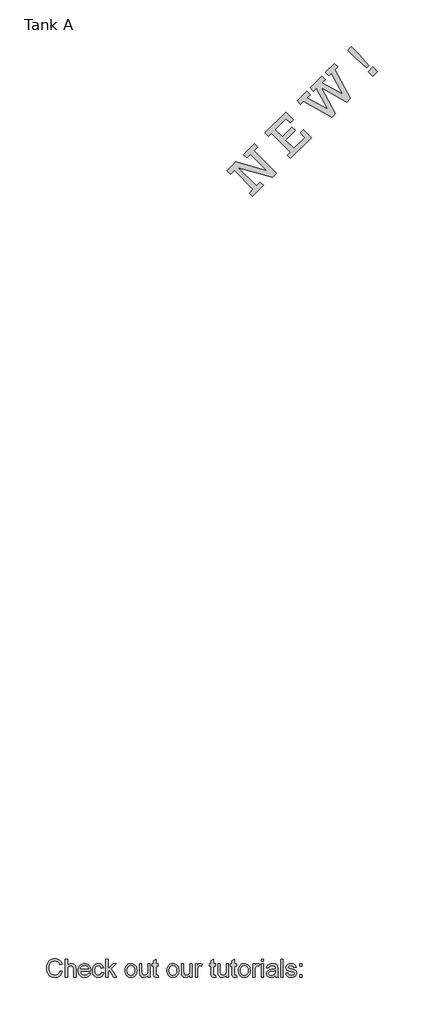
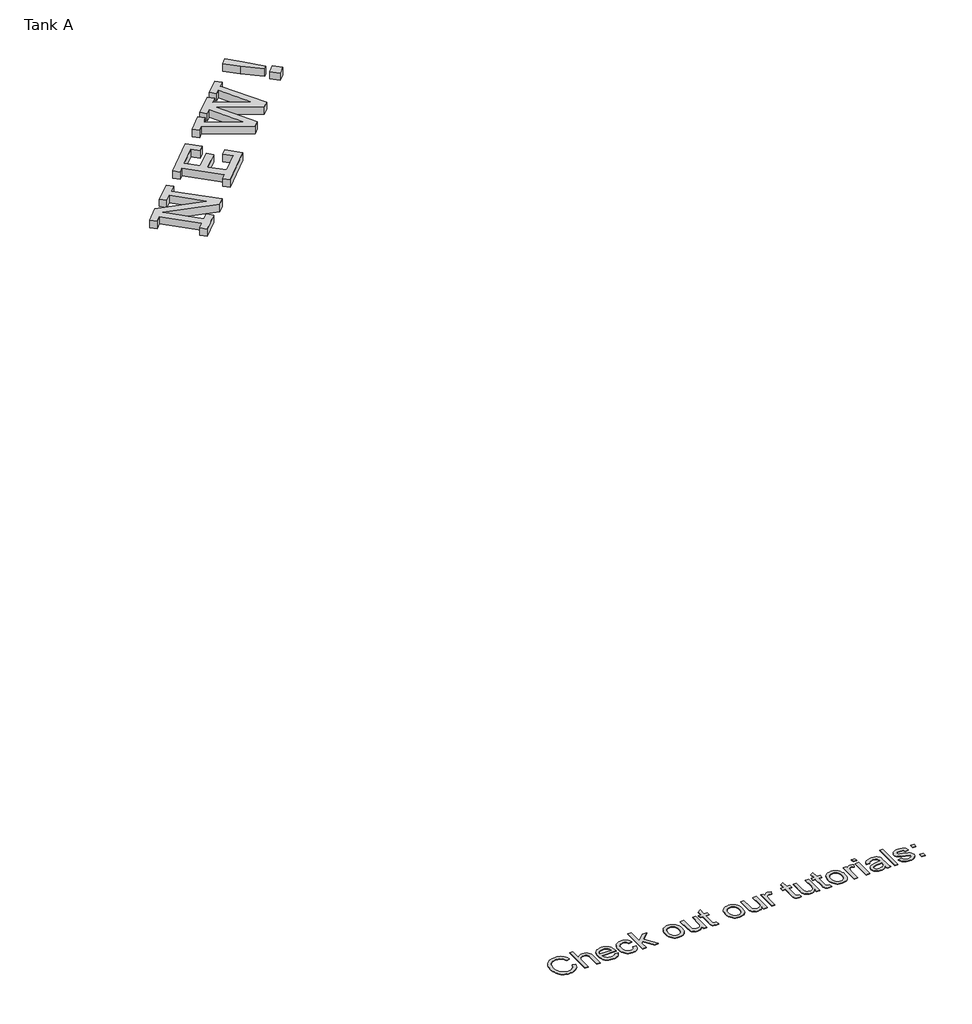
# One storey, part 5 of 6: 2 proxies.
"""IFC4 building model written with IfcOpenShell, lengths in millimetres."""

import ifcopenshell
import ifcopenshell.guid

model = None  # the IFC model being written
_history = None  # IfcOwnerHistory: only IFC2X3 demands one
_inside = {}  # id of a spatial element -> (the spatial element, [elements in it])
_under = {}  # id of a project, library or spatial element -> (it, [spatial elements below it])
_declared = {}  # id of a project -> (the project, [libraries it declares])
_typed = {}  # id of a type object -> (the type object, [elements of that type])
_made_of = {}  # id of a material, layer set ... -> (it, [elements and type objects made of it])


def new_model(schema):
    """Start an empty IFC model of exactly this schema.

    Asked for "IFC4X3", IfcOpenShell would pick the latest addendum, in which some entities
    have other attributes; the version numbers below select the first issue.
    IFC2X3 requires an IfcOwnerHistory on every rooted entity: one is made here for all.
    """
    global model, _history
    if schema == "IFC4X3":
        model = ifcopenshell.file(schema_version=(4, 3, 0, 0))
    else:
        model = ifcopenshell.file(schema=schema)
    _inside.clear()
    _under.clear()
    _declared.clear()
    _typed.clear()
    _made_of.clear()
    _history = None
    if model.schema == "IFC2X3":
        org = make("IfcOrganization", Name="unknown")
        user = make(
            "IfcPersonAndOrganization",
            ThePerson=make("IfcPerson", FamilyName="unknown"),
            TheOrganization=org,
        )
        app = make(
            "IfcApplication",
            ApplicationDeveloper=org,
            Version="unknown",
            ApplicationFullName="unknown",
            ApplicationIdentifier="unknown",
        )
        _history = make(
            "IfcOwnerHistory",
            OwningUser=user,
            OwningApplication=app,
            ChangeAction="ADDED",
            CreationDate=0,
        )
    return model


def make(cls, **values):
    """One entity of the class cls with the attributes given. An attribute that is None is left unset."""
    return model.create_entity(
        cls, **{name: value for name, value in values.items() if value is not None}
    )


def rooted(cls, **values):
    """An entity with a GlobalId (a new one), such as an element, a storey or a relation."""
    return make(cls, GlobalId=ifcopenshell.guid.new(), OwnerHistory=_history, **values)


def si_unit(unit_type, name, prefix=None):
    """IfcSIUnit, for example si_unit("LENGTHUNIT", "METRE", prefix="MILLI")."""
    return make("IfcSIUnit", UnitType=unit_type, Prefix=prefix, Name=name)


def assignment(units):
    """IfcUnitAssignment: the units of a project."""
    return None if units is None else make("IfcUnitAssignment", Units=units)


def point(xyz):
    """IfcCartesianPoint."""
    return None if xyz is None else make("IfcCartesianPoint", Coordinates=xyz)


def direction(xyz):
    """IfcDirection."""
    return None if xyz is None else make("IfcDirection", DirectionRatios=xyz)


def frame(location, z_axis=None, x_axis=None):
    """IfcAxis2Placement3D, a coordinate frame: its origin and axes. An axis left out is left unset."""
    return make(
        "IfcAxis2Placement3D",
        Location=point(location),
        Axis=direction(z_axis),
        RefDirection=direction(x_axis),
    )


def origin():
    """The frame at (0, 0, 0) with its axes left unset."""
    return frame((0.0, 0.0, 0.0))


def place(relative_to, where):
    """IfcLocalPlacement: puts the frame where relative to a parent placement (None: the world)."""
    return make(
        "IfcLocalPlacement", PlacementRelTo=relative_to, RelativePlacement=where
    )


def context(
    kind, dimensions, precision=None, world=None, true_north=None, identifier=None
):
    """IfcGeometricRepresentationContext, for example the 3D "Model" context."""
    return make(
        "IfcGeometricRepresentationContext",
        ContextIdentifier=identifier,
        ContextType=kind,
        CoordinateSpaceDimension=dimensions,
        Precision=precision,
        WorldCoordinateSystem=world,
        TrueNorth=true_north,
    )


def project(units=None, contexts=None):
    """IfcProject with its units and contexts."""
    return rooted(
        "IfcProject",
        Name="project",
        RepresentationContexts=contexts,
        UnitsInContext=assignment(units),
    )


def spatial(cls, under=None, at=None, **own):
    """A site, building, storey or space (cls), placed at a placement, below another one or the project."""
    s = rooted(cls, ObjectPlacement=at, **own)
    if under is not None:
        _under.setdefault(under.id(), (under, []))[1].append(s)
    return s


def polyline(points):
    """IfcPolyline through the points."""
    return make("IfcPolyline", Points=[point(p) for p in points])


def outline(outer, holes=None, kind="AREA"):
    """IfcArbitraryClosedProfileDef: a profile drawn as a closed curve; with holes, ...WithVoids."""
    if holes is None:
        return make("IfcArbitraryClosedProfileDef", ProfileType=kind, OuterCurve=outer)
    return make(
        "IfcArbitraryProfileDefWithVoids",
        ProfileType=kind,
        OuterCurve=outer,
        InnerCurves=holes,
    )


def extrude(swept, where, along, depth):
    """IfcExtrudedAreaSolid: the profile swept, set in the frame where, extruded along a direction by depth."""
    return make(
        "IfcExtrudedAreaSolid",
        SweptArea=swept,
        Position=where,
        ExtrudedDirection=direction(along),
        Depth=depth,
    )


def shape(context_of_items, identifier, shape_type, items):
    """IfcShapeRepresentation: the items that make up one representation, for example the "Body"."""
    return make(
        "IfcShapeRepresentation",
        ContextOfItems=context_of_items,
        RepresentationIdentifier=identifier,
        RepresentationType=shape_type,
        Items=items,
    )


def made_of(thing, what):
    """Note that an element or type object is made of a material, layer set ...; save() writes the relation."""
    if what is not None:
        _made_of.setdefault(what.id(), (what, []))[1].append(thing)
    return thing


def element(
    cls,
    number,
    at=None,
    inside=None,
    cuts=None,
    type_object=None,
    material=None,
    context=None,
    identifier="Body",
    shape_type=None,
    held_by="IfcProductDefinitionShape",
    body=None,
    shapes=None,
    **own,
):
    """One element of the class cls, such as IfcWall. Its Tag is "e" and its number.

    at: its placement. inside: the storey or other place that contains it. cuts: it is an
    opening in that element (IfcRelVoidsElement). A single representation is given by context,
    identifier, shape_type and body (its items); several are given by shapes. held_by: the class
    of the entity that holds the representations. save() writes the other relations.
    """
    e = rooted(cls, Tag="e%d" % number, ObjectPlacement=at, **own)
    if body is not None:
        shapes = [shape(context, identifier, shape_type, body)]
    if shapes is not None:
        e.Representation = make(held_by, Representations=shapes)
    if inside is not None:
        _inside.setdefault(inside.id(), (inside, []))[1].append(e)
    if cuts is not None:
        rooted(
            "IfcRelVoidsElement", RelatingBuildingElement=cuts, RelatedOpeningElement=e
        )
    if type_object is not None:
        _typed.setdefault(type_object.id(), (type_object, []))[1].append(e)
    return made_of(e, material)


def aggregate(whole, parts):
    """IfcRelAggregates: a whole, such as a stair, and the parts it consists of."""
    return rooted("IfcRelAggregates", RelatingObject=whole, RelatedObjects=parts)


def save(model, path):
    """Write the relations noted so far, then the file.

    IfcRelAggregates (storeys below a building ...), IfcRelContainedInSpatialStructure (elements
    in a storey), IfcRelDefinesByType, IfcRelAssociatesMaterial and IfcRelDeclares: one each for
    every whole, place, type object, material and project.
    """
    for whole, parts in _under.values():
        aggregate(whole, parts)
    for where, things in _inside.values():
        rooted(
            "IfcRelContainedInSpatialStructure",
            RelatedElements=things,
            RelatingStructure=where,
        )
    for kind, things in _typed.values():
        rooted("IfcRelDefinesByType", RelatedObjects=things, RelatingType=kind)
    for what, things in _made_of.values():
        rooted("IfcRelAssociatesMaterial", RelatedObjects=things, RelatingMaterial=what)
    for by, libraries in _declared.values():
        rooted("IfcRelDeclares", RelatingContext=by, RelatedDefinitions=libraries)
    model.write(path)


model = new_model("IFC4")

# Units and contexts
model_context = context("Model", 3, world=origin())
ifc_project = project(units=[si_unit("LENGTHUNIT", "METRE", prefix="MILLI")], contexts=[model_context])

# Site, building, storey
site = spatial("IfcSite", under=ifc_project)
building = spatial("IfcBuilding", under=site)
storey = spatial("IfcBuildingStorey", under=building, Name="Tank A", Elevation=-2300.0)

# Proxies
placement = place(None, origin())
element("IfcBuildingElementProxy", 1, Name="Rockwell", ObjectType="Rockwell", at=placement, inside=storey, context=model_context, shape_type="SweptSolid", body=[
    extrude(outline(polyline([(-7009.4180392, 12127.2675447), (-7528.7968569, 12646.6463624), (-7632.6726204, 12542.7705989), (-7725.0066324, 12635.1046109), (-7477.5803346, 12882.5309088), (-6620.9659652, 12639.072088), (-7078.6685482, 13096.774671), (-7182.5443118, 12992.8989075), (-7274.8783238, 13085.2329195), (-6974.7927847, 13385.3184586), (-6882.4587727, 13292.9844466), (-6986.3345362, 13189.1086831), (-6363.079955, 12565.8541019), (-6474.529993, 12454.4040639), (-7421.314296, 12723.8318256), (-6917.0840272, 12219.6015568), (-6813.2082637, 12323.4773203), (-6720.8742516, 12231.1433083), (-7020.9597907, 11931.0577692), (-7113.2938027, 12023.3917812), (-7009.4180392, 12127.2675447)])), frame((0.0, 0.0, -2300.0), z_axis=(0.0, 0.0, 1.0), x_axis=(1.0, 0.0, 0.0)), (0.0, 0.0, 1.0), 150.0),
    extrude(outline(polyline([(-5982.2021554, 13154.4834286), (-6501.5809731, 13673.8622462), (-6582.3732336, 13593.0699857), (-6674.7072456, 13685.4039977), (-6097.6196704, 14262.4915729), (-5889.8681434, 14054.7400458), (-5982.2021554, 13962.4060338), (-6097.6196704, 14077.8235488), (-6397.7052095, 13777.7380097), (-6201.495434, 13581.5282342), (-5936.0351494, 13846.9885188), (-5843.7011374, 13754.6545067), (-6109.161422, 13489.1942221), (-5878.3263919, 13258.3591921), (-5578.2408528, 13558.4447312), (-5705.2001193, 13685.4039977), (-5612.8661073, 13777.7380097), (-5393.5728287, 13558.4447312), (-5970.6604039, 12981.357156), (-6062.9944159, 13073.691168), (-5982.2021554, 13154.4834286)])), frame((0.0, 0.0, -2300.0), z_axis=(0.0, 0.0, 1.0), x_axis=(1.0, 0.0, 0.0)), (0.0, 0.0, 1.0), 150.0),
    extrude(outline(polyline([(-4828.3876848, 14123.6298751), (-5612.8661073, 14562.577112), (-5693.6583678, 14481.7848514), (-5785.9923799, 14574.1188635), (-5520.5320953, 14839.579148), (-5428.1980832, 14747.245136), (-5516.2039385, 14659.2392808), (-4935.6899058, 14335.5292191), (-5255.7931702, 14919.6500491), (-5335.8640712, 14839.579148), (-5428.1980832, 14931.9131601), (-5105.0290412, 15255.0822022), (-5012.6950291, 15162.7481901), (-5098.1761262, 15077.2670931), (-4520.1868517, 14751.0322732), (-4840.290116, 15335.1531032), (-4908.8192656, 15266.6239537), (-5001.1532776, 15358.9579657), (-4758.7764961, 15601.3347473), (-4666.442484, 15509.0007352), (-4747.2347445, 15428.2084747), (-4312.9763442, 14639.0412157), (-4413.0649706, 14538.9525894), (-5114.9477339, 14930.2901013), (-4730.6434768, 14221.3740831), (-4828.3876848, 14123.6298751)])), frame((0.0, 0.0, -2300.0), z_axis=(0.0, 0.0, 1.0), x_axis=(1.0, 0.0, 0.0)), (0.0, 0.0, 1.0), 150.0),
    extrude(outline(polyline([(-3803.5162193, 15540.9208917), (-3855.8147808, 15488.6223302), (-4177.5411039, 15758.7714514), (-4389.4404479, 15970.6707954), (-4285.5646844, 16074.5465589), (-4073.6653404, 15862.6472149), (-3803.5162193, 15540.9208917)])), frame((0.0, 0.0, -2300.0), z_axis=(0.0, 0.0, 1.0), x_axis=(1.0, 0.0, 0.0)), (0.0, 0.0, 1.0), 150.0),
    extrude(outline(polyline([(-3696.9353577, 15255.0822022), (-3823.8946243, 15382.0414687), (-3696.9353577, 15509.0007352), (-3569.9760912, 15382.0414687), (-3696.9353577, 15255.0822022)])), frame((0.0, 0.0, -2300.0), z_axis=(0.0, 0.0, 1.0), x_axis=(1.0, 0.0, 0.0)), (0.0, 0.0, 1.0), 150.0),
])
element("IfcBuildingElementProxy", 2, Name="Arial 500", ObjectType="Arial 500", at=placement, inside=storey, context=model_context, shape_type="SweptSolid", body=[
    extrude(outline(polyline([(-12353.6342781, -9489.0697455), (-12290.8490843, -9505.2565533), (-12303.2727658, -9544.3018621), (-12319.8197914, -9578.4190851), (-12340.490161, -9607.6082221), (-12365.2838746, -9631.8692733), (-12393.6414451, -9650.9416555), (-12425.0033852, -9664.5647856), (-12459.3696949, -9672.7386637), (-12496.7403742, -9675.4632897), (-12535.0269265, -9673.4016177), (-12569.5656809, -9667.2166016), (-12600.3566374, -9656.9082416), (-12627.3997962, -9642.4765375), (-12651.0668712, -9624.1360872), (-12671.7295766, -9602.1014885), (-12689.3879124, -9576.3727415), (-12704.0418785, -9546.9498461), (-12715.5496872, -9515.1050608), (-12723.7695505, -9482.1106444), (-12728.7014685, -9447.9665967), (-12730.3454412, -9412.6729178), (-12728.4868707, -9374.8040649), (-12722.9111592, -9339.4337439), (-12713.6183067, -9306.5619548), (-12700.6083132, -9276.1886976), (-12684.1724187, -9248.8159779), (-12664.601863, -9224.9458014), (-12641.8966461, -9204.578168), (-12616.056768, -9187.7130778), (-12587.9597806, -9174.4884865), (-12558.4832358, -9165.0423498), (-12527.6271334, -9159.3746678), (-12495.3914736, -9157.4854405), (-12459.4808259, -9159.9303229), (-12426.5515552, -9167.2649702), (-12396.6036616, -9179.4893823), (-12369.6371449, -9196.6035593), (-12346.0965293, -9218.1553129), (-12326.4263389, -9243.6924547), (-12310.6265736, -9273.2149848), (-12298.6972335, -9306.7229032), (-12361.4824273, -9321.6834377), (-12371.369256, -9296.9931909), (-12383.2487787, -9275.8974577), (-12397.1209956, -9258.3962382), (-12412.9859067, -9244.4895324), (-12430.9354823, -9233.8937645), (-12451.0616932, -9226.3253588), (-12473.3645391, -9221.7843155), (-12497.8440202, -9220.2706343), (-12526.0099855, -9221.9490959), (-12551.7693893, -9226.9844808), (-12575.1222318, -9235.3767888), (-12596.0685129, -9247.12602), (-12614.3438175, -9261.703344), (-12629.6837302, -9278.5799306), (-12642.0882513, -9297.7557796), (-12651.5573805, -9319.230891), (-12663.5595306, -9365.1854836), (-12667.5602473, -9412.5502905), (-12662.8237666, -9470.5530184), (-12648.6143246, -9520.7075971), (-12637.8231194, -9542.3628174), (-12624.3954266, -9561.0979745), (-12608.3312461, -9576.9130681), (-12589.630578, -9589.8080985), (-12547.9526136, -9606.9605965), (-12502.9943682, -9612.6780959), (-12475.6982905, -9610.731387), (-12450.5865123, -9604.8912603), (-12427.6590333, -9595.1577158), (-12406.9158537, -9581.5307536), (-12388.8474828, -9564.0716872), (-12373.9444299, -9542.8418304), (-12362.206695, -9517.8411832), (-12353.6342781, -9489.0697455)])), frame((0.0, 0.0, -2300.0), z_axis=(0.0, 0.0, 1.0), x_axis=(1.0, 0.0, 0.0)), (0.0, 0.0, 1.0), 10.0),
    extrude(outline(polyline([(-12212.367592, -9667.6151405), (-12212.367592, -9165.3335897), (-12149.5823981, -9165.3335897), (-12149.5823981, -9350.0103513), (-12126.5207955, -9324.1513127), (-12100.6234359, -9305.6805709), (-12071.8903193, -9294.5981258), (-12040.3214456, -9290.9039774), (-12002.3989432, -9294.9353509), (-11969.8107298, -9307.0294715), (-11944.1509606, -9326.2359774), (-11927.013791, -9351.6045066), (-11917.3568887, -9386.4613257), (-11914.1379212, -9434.1327009), (-11914.1379212, -9667.6151405), (-11976.9231151, -9667.6151405), (-11976.9231151, -9440.6319495), (-11981.9201788, -9401.3298896), (-11988.1665085, -9386.3233699), (-11996.9113701, -9374.4131903), (-12007.94783, -9365.346432), (-12021.0689545, -9358.870176), (-12053.5651974, -9353.6891713), (-12080.0986863, -9357.1840502), (-12105.007363, -9367.6686871), (-12125.6394116, -9384.1314064), (-12139.3430159, -9405.5605326), (-12147.0225526, -9434.0407304), (-12149.5823981, -9471.6566644), (-12149.5823981, -9667.6151405), (-12212.367592, -9667.6151405)])), frame((0.0, 0.0, -2300.0), z_axis=(0.0, 0.0, 1.0), x_axis=(1.0, 0.0, 0.0)), (0.0, 0.0, 1.0), 10.0),
    extrude(outline(polyline([(-11569.5551191, -9557.7410512), (-11507.9961985, -9565.5892005), (-11517.434671, -9590.2449584), (-11530.1764172, -9611.9729887), (-11546.2214371, -9630.7732915), (-11565.5697308, -9646.6458667), (-11588.0220288, -9659.2534893), (-11613.3790617, -9668.258934), (-11641.6408296, -9673.6622008), (-11672.8073324, -9675.4632897), (-11711.7645028, -9672.3554533), (-11746.4757019, -9663.031944), (-11776.9409296, -9647.4927618), (-11803.160186, -9625.7379067), (-11824.2444228, -9598.3728512), (-11839.304592, -9566.0030677), (-11848.3406935, -9528.6285563), (-11851.3527274, -9486.2493169), (-11848.3100367, -9442.4330384), (-11839.1819647, -9403.8130931), (-11823.9685113, -9370.389481), (-11802.6696767, -9342.1622021), (-11776.5193982, -9319.7367288), (-11746.7516134, -9303.7185336), (-11713.3663223, -9294.1076165), (-11676.363525, -9290.9039774), (-11640.552512, -9294.0999522), (-11608.1674001, -9303.6878767), (-11579.2081893, -9319.6677509), (-11553.6748796, -9342.0395747), (-11532.8320653, -9370.20554), (-11517.9443408, -9403.5678384), (-11509.0117061, -9442.1264701), (-11506.0341612, -9485.8814349), (-11506.4020432, -9502.8040066), (-11788.5675335, -9502.8040066), (-11784.9308667, -9527.8583033), (-11777.6996862, -9549.8009315), (-11766.8739921, -9568.6318911), (-11752.4537843, -9584.3511822), (-11735.2361405, -9596.7442069), (-11716.0181384, -9605.5963675), (-11694.7997779, -9610.9076638), (-11671.5810591, -9612.6780959), (-11638.1651112, -9609.3978147), (-11610.0221385, -9599.5569714), (-11587.1521412, -9582.5424291), (-11569.5551191, -9557.7410512)]), holes=[polyline([(-11788.5675335, -9440.0188128), (-11568.8193551, -9440.0188128), (-11577.3112978, -9406.8481196), (-11593.9579581, -9383.1197309), (-11611.0797993, -9370.243861), (-11630.5622166, -9361.0468112), (-11652.4052101, -9355.5285812), (-11676.6087797, -9353.6891713), (-11718.9305375, -9359.5599548), (-11737.3437978, -9366.8984341), (-11753.9253123, -9377.1723053), (-11767.8396824, -9389.9063873), (-11778.2515092, -9404.6254992), (-11785.160793, -9421.329641), (-11788.5675335, -9440.0188128)])]), frame((0.0, 0.0, -2300.0), z_axis=(0.0, 0.0, 1.0), x_axis=(1.0, 0.0, 0.0)), (0.0, 0.0, 1.0), 10.0),
    extrude(outline(polyline([(-11207.8044905, -9534.1966036), (-11145.0192966, -9542.0447528), (-11151.8481062, -9571.6707497), (-11162.5243482, -9597.886174), (-11177.0480228, -9620.6910256), (-11195.41913, -9640.0853045), (-11216.8635846, -9655.563173), (-11240.6073017, -9666.6187934), (-11266.6502813, -9673.2521656), (-11294.9925233, -9675.4632897), (-11330.2057281, -9672.3784459), (-11361.7784339, -9663.1239144), (-11389.7106408, -9647.6996954), (-11414.0023488, -9626.1057887), (-11433.664875, -9598.7483974), (-11447.7095366, -9566.0337246), (-11456.1363335, -9527.9617702), (-11458.9452658, -9484.5325342), (-11454.1474715, -9428.6604562), (-11439.7540884, -9380.2379886), (-11428.9015696, -9359.2878754), (-11415.5351904, -9341.1351982), (-11399.654951, -9325.779957), (-11381.2608512, -9313.2221518), (-11340.2573371, -9296.483521), (-11295.8509146, -9290.9039774), (-11267.9953498, -9292.8200295), (-11242.7992653, -9298.5681856), (-11220.262661, -9308.1484459), (-11200.3855369, -9321.5608103), (-11183.5051183, -9338.4987105), (-11169.9586302, -9358.6555782), (-11159.7460727, -9382.0314133), (-11152.8674459, -9408.6262159), (-11215.6526397, -9416.4743651), (-11227.0416531, -9389.0824849), (-11244.776631, -9369.4467834), (-11267.8765546, -9357.6285743), (-11295.3604053, -9353.6891713), (-11316.6937289, -9355.6282159), (-11335.9347237, -9361.44535), (-11353.0833896, -9371.1405734), (-11368.1397267, -9384.7138862), (-11380.3986278, -9402.4795209), (-11389.1549857, -9424.75171), (-11394.4088004, -9451.5304536), (-11396.160072, -9482.8157516), (-11394.4471215, -9514.5723984), (-11389.3082698, -9541.6615424), (-11380.7435171, -9564.0831836), (-11368.7528634, -9581.8373219), (-11353.9954304, -9595.3301605), (-11337.1303402, -9604.9679024), (-11318.1575927, -9610.7505475), (-11297.077188, -9612.6780959), (-11264.5656166, -9607.8649731), (-11237.9095004, -9593.4256048), (-11227.1297915, -9582.504108), (-11218.5190536, -9568.9921089), (-11207.8044905, -9534.1966036)])), frame((0.0, 0.0, -2300.0), z_axis=(0.0, 0.0, 1.0), x_axis=(1.0, 0.0, 0.0)), (0.0, 0.0, 1.0), 10.0),
    extrude(outline(polyline([(-11090.082252, -9667.6151405), (-11090.082252, -9165.3335897), (-11027.2970582, -9165.3335897), (-11027.2970582, -9435.2363469), (-10886.5208813, -9298.7521266), (-10799.7007305, -9298.7521266), (-10942.19369, -9436.9531295), (-10791.8525813, -9667.6151405), (-10865.1837256, -9667.6151405), (-10987.1979207, -9480.6084596), (-11027.2970582, -9519.4813237), (-11027.2970582, -9667.6151405), (-11090.082252, -9667.6151405)])), frame((0.0, 0.0, -2300.0), z_axis=(0.0, 0.0, 1.0), x_axis=(1.0, 0.0, 0.0)), (0.0, 0.0, 1.0), 10.0),
    extrude(outline(polyline([(-10556.4081043, -9483.1836336), (-10553.0128601, -9435.4126236), (-10542.8271274, -9394.2481612), (-10525.8509061, -9359.6902463), (-10502.0841964, -9331.7388789), (-10478.1565383, -9313.8736095), (-10451.7456767, -9301.1127028), (-10422.8516117, -9293.4561588), (-10391.4743432, -9290.9039774), (-10356.8359541, -9294.0118139), (-10325.5161671, -9303.3353232), (-10297.5149823, -9318.8745054), (-10272.8323997, -9340.6293604), (-10252.6870284, -9367.8641244), (-10238.2974774, -9399.8430332), (-10229.6637469, -9436.566087), (-10226.7858367, -9478.0332856), (-10231.8748709, -9541.462273), (-10238.2361638, -9567.4975883), (-10247.1419737, -9589.7467848), (-10258.4811698, -9608.964787), (-10272.142621, -9625.9065193), (-10288.1263273, -9640.5719817), (-10306.4322886, -9652.9611743), (-10347.1598912, -9669.8377609), (-10391.4743432, -9675.4632897), (-10426.61857, -9672.3669496), (-10458.2295969, -9663.0779292), (-10486.3074237, -9647.5962286), (-10510.8520506, -9625.9218477), (-10530.7828241, -9598.4226685), (-10545.0190909, -9565.4665731), (-10553.560851, -9527.0535615), (-10556.4081043, -9483.1836336)]), holes=[polyline([(-10493.6229105, -9483.0610062), (-10491.8064931, -9513.5147376), (-10486.3572411, -9539.8834461), (-10477.2751543, -9562.1671315), (-10464.5602329, -9580.365794), (-10449.0938607, -9594.502426), (-10431.7574216, -9604.6000204), (-10412.5509158, -9610.658577), (-10391.4743432, -9612.6780959), (-10370.5050694, -9610.6470807), (-10351.3752057, -9604.5540351), (-10334.0847519, -9594.3989592), (-10318.6337081, -9580.181853), (-10305.9187867, -9561.8030816), (-10296.8366999, -9539.1630105), (-10291.3874479, -9512.2616396), (-10289.5710305, -9481.0989689), (-10291.3989442, -9451.6109277), (-10296.8826852, -9425.9319981), (-10306.0222535, -9404.0621799), (-10318.8176491, -9386.0014732), (-10334.3261745, -9371.8648411), (-10351.6051319, -9361.7672467), (-10370.6545215, -9355.7086901), (-10391.4743432, -9353.6891713), (-10412.5509158, -9355.7010259), (-10431.7574216, -9361.7365899), (-10449.0938607, -9371.7958632), (-10464.5602329, -9385.8788458), (-10477.2751543, -9404.0238588), (-10486.3572411, -9426.2692232), (-10491.8064931, -9452.614939), (-10493.6229105, -9483.0610062)])]), frame((0.0, 0.0, -2300.0), z_axis=(0.0, 0.0, 1.0), x_axis=(1.0, 0.0, 0.0)), (0.0, 0.0, 1.0), 10.0),
    extrude(outline(polyline([(-9920.7080167, -9667.6151405), (-9920.7080167, -9604.21681), (-9943.4247299, -9635.3871449), (-9969.8815767, -9657.6516698), (-10000.0785571, -9671.0103847), (-10034.0156712, -9675.4632897), (-10064.595862, -9672.3362927), (-10093.0607314, -9662.9553019), (-10116.9424043, -9648.8531587), (-10133.7730055, -9631.5627049), (-10145.1007053, -9610.5627744), (-10152.4736736, -9585.3322009), (-10156.1524936, -9526.961591), (-10156.1524936, -9298.7521266), (-10093.3672997, -9298.7521266), (-10093.3672997, -9497.408404), (-10089.5658525, -9561.4198712), (-10080.4147878, -9582.7723553), (-10064.7338178, -9599.0051484), (-10043.5652746, -9609.259859), (-10017.9514907, -9612.6780959), (-9990.8661788, -9609.1832169), (-9965.5283064, -9598.69858), (-9944.6356748, -9582.1898755), (-9930.8860852, -9560.6227935), (-9923.2525338, -9531.084935), (-9920.7080167, -9490.6639008), (-9920.7080167, -9298.7521266), (-9857.9228228, -9298.7521266), (-9857.9228228, -9667.6151405), (-9920.7080167, -9667.6151405)])), frame((0.0, 0.0, -2300.0), z_axis=(0.0, 0.0, 1.0), x_axis=(1.0, 0.0, 0.0)), (0.0, 0.0, 1.0), 10.0),
    extrude(outline(polyline([(-9638.1746444, -9615.2532698), (-9630.3264951, -9669.4545505), (-9677.2927632, -9675.4632897), (-9707.42843, -9672.8574589), (-9729.8998885, -9665.0399665), (-9745.780128, -9652.9918312), (-9756.1421375, -9637.6940715), (-9761.8443084, -9611.4211657), (-9763.7450321, -9566.4475918), (-9763.7450321, -9361.5373205), (-9810.8339275, -9361.5373205), (-9810.8339275, -9298.7521266), (-9763.7450321, -9298.7521266), (-9763.7450321, -9209.1115472), (-9700.9598382, -9172.2007203), (-9700.9598382, -9298.7521266), (-9638.1746444, -9298.7521266), (-9638.1746444, -9361.5373205), (-9700.9598382, -9361.5373205), (-9700.9598382, -9564.6081818), (-9697.6489003, -9596.9817974), (-9686.9190087, -9608.4474529), (-9665.5205394, -9612.6780959), (-9638.1746444, -9615.2532698)])), frame((0.0, 0.0, -2300.0), z_axis=(0.0, 0.0, 1.0), x_axis=(1.0, 0.0, 0.0)), (0.0, 0.0, 1.0), 10.0),
    extrude(outline(polyline([(-9394.8820182, -9483.1836336), (-9391.486774, -9435.4126236), (-9381.3010412, -9394.2481612), (-9364.32482, -9359.6902463), (-9340.5581103, -9331.7388789), (-9316.6304522, -9313.8736095), (-9290.2195906, -9301.1127028), (-9261.3255256, -9293.4561588), (-9229.9482571, -9290.9039774), (-9195.309868, -9294.0118139), (-9163.990081, -9303.3353232), (-9135.9888962, -9318.8745054), (-9111.3063136, -9340.6293604), (-9091.1609423, -9367.8641244), (-9076.7713913, -9399.8430332), (-9068.1376607, -9436.566087), (-9065.2597506, -9478.0332856), (-9070.3487848, -9541.462273), (-9076.7100777, -9567.4975883), (-9085.6158876, -9589.7467848), (-9096.9550837, -9608.964787), (-9110.6165349, -9625.9065193), (-9126.6002412, -9640.5719817), (-9144.9062025, -9652.9611743), (-9185.6338051, -9669.8377609), (-9229.9482571, -9675.4632897), (-9265.0924839, -9672.3669496), (-9296.7035108, -9663.0779292), (-9324.7813376, -9647.5962286), (-9349.3259645, -9625.9218477), (-9369.256738, -9598.4226685), (-9383.4930048, -9565.4665731), (-9392.0347649, -9527.0535615), (-9394.8820182, -9483.1836336)]), holes=[polyline([(-9332.0968244, -9483.0610062), (-9330.280407, -9513.5147376), (-9324.831155, -9539.8834461), (-9315.7490682, -9562.1671315), (-9303.0341468, -9580.365794), (-9287.5677746, -9594.502426), (-9270.2313355, -9604.6000204), (-9251.0248297, -9610.658577), (-9229.9482571, -9612.6780959), (-9208.9789833, -9610.6470807), (-9189.8491196, -9604.5540351), (-9172.5586658, -9594.3989592), (-9157.107622, -9580.181853), (-9144.3927006, -9561.8030816), (-9135.3106138, -9539.1630105), (-9129.8613618, -9512.2616396), (-9128.0449444, -9481.0989689), (-9129.8728581, -9451.6109277), (-9135.3565991, -9425.9319981), (-9144.4961674, -9404.0621799), (-9157.291563, -9386.0014732), (-9172.8000884, -9371.8648411), (-9190.0790458, -9361.7672467), (-9209.1284354, -9355.7086901), (-9229.9482571, -9353.6891713), (-9251.0248297, -9355.7010259), (-9270.2313355, -9361.7365899), (-9287.5677746, -9371.7958632), (-9303.0341468, -9385.8788458), (-9315.7490682, -9404.0238588), (-9324.831155, -9426.2692232), (-9330.280407, -9452.614939), (-9332.0968244, -9483.0610062)])]), frame((0.0, 0.0, -2300.0), z_axis=(0.0, 0.0, 1.0), x_axis=(1.0, 0.0, 0.0)), (0.0, 0.0, 1.0), 10.0),
    extrude(outline(polyline([(-8759.1819306, -9667.6151405), (-8759.1819306, -9604.21681), (-8781.8986438, -9635.3871449), (-8808.3554906, -9657.6516698), (-8838.552471, -9671.0103847), (-8872.4895851, -9675.4632897), (-8903.0697759, -9672.3362927), (-8931.5346453, -9662.9553019), (-8955.4163182, -9648.8531587), (-8972.2469194, -9631.5627049), (-8983.5746192, -9610.5627744), (-8990.9475875, -9585.3322009), (-8994.6264075, -9526.961591), (-8994.6264075, -9298.7521266), (-8931.8412136, -9298.7521266), (-8931.8412136, -9497.408404), (-8928.0397664, -9561.4198712), (-8918.8887017, -9582.7723553), (-8903.2077317, -9599.0051484), (-8882.0391885, -9609.259859), (-8856.4254046, -9612.6780959), (-8829.3400927, -9609.1832169), (-8804.0022203, -9598.69858), (-8783.1095887, -9582.1898755), (-8769.3599991, -9560.6227935), (-8761.7264477, -9531.084935), (-8759.1819306, -9490.6639008), (-8759.1819306, -9298.7521266), (-8696.3967367, -9298.7521266), (-8696.3967367, -9667.6151405), (-8759.1819306, -9667.6151405)])), frame((0.0, 0.0, -2300.0), z_axis=(0.0, 0.0, 1.0), x_axis=(1.0, 0.0, 0.0)), (0.0, 0.0, 1.0), 10.0),
    extrude(outline(polyline([(-8610.0670952, -9667.6151405), (-8610.0670952, -9298.7521266), (-8555.1300506, -9298.7521266), (-8555.1300506, -9353.3212893), (-8534.8352272, -9321.6834377), (-8516.1345591, -9303.0440833), (-8497.3725773, -9293.9390039), (-8476.8938129, -9290.9039774), (-8445.6238433, -9295.747757), (-8413.8633644, -9310.2790958), (-8434.8326382, -9366.5650411), (-8456.9055579, -9356.9081387), (-8478.9784776, -9353.6891713), (-8497.7251309, -9356.7855114), (-8514.4790901, -9366.0745318), (-8528.0140819, -9380.8511252), (-8537.1038328, -9400.4101846), (-8544.7373842, -9435.4816015), (-8547.2819013, -9473.741329), (-8547.2819013, -9667.6151405), (-8610.0670952, -9667.6151405)])), frame((0.0, 0.0, -2300.0), z_axis=(0.0, 0.0, 1.0), x_axis=(1.0, 0.0, 0.0)), (0.0, 0.0, 1.0), 10.0),
    extrude(outline(polyline([(-8045.0003506, -9615.2532698), (-8037.1522014, -9669.4545505), (-8084.1184694, -9675.4632897), (-8114.2541362, -9672.8574589), (-8136.7255947, -9665.0399665), (-8152.6058342, -9652.9918312), (-8162.9678437, -9637.6940715), (-8168.6700146, -9611.4211657), (-8170.5707383, -9566.4475918), (-8170.5707383, -9361.5373205), (-8217.6596337, -9361.5373205), (-8217.6596337, -9298.7521266), (-8170.5707383, -9298.7521266), (-8170.5707383, -9209.1115472), (-8107.7855444, -9172.2007203), (-8107.7855444, -9298.7521266), (-8045.0003506, -9298.7521266), (-8045.0003506, -9361.5373205), (-8107.7855444, -9361.5373205), (-8107.7855444, -9564.6081818), (-8104.4746065, -9596.9817974), (-8093.744715, -9608.4474529), (-8072.3462456, -9612.6780959), (-8045.0003506, -9615.2532698)])), frame((0.0, 0.0, -2300.0), z_axis=(0.0, 0.0, 1.0), x_axis=(1.0, 0.0, 0.0)), (0.0, 0.0, 1.0), 10.0),
    extrude(outline(polyline([(-7746.7706798, -9667.6151405), (-7746.7706798, -9604.21681), (-7769.487393, -9635.3871449), (-7795.9442399, -9657.6516698), (-7826.1412203, -9671.0103847), (-7860.0783344, -9675.4632897), (-7890.6585252, -9672.3362927), (-7919.1233946, -9662.9553019), (-7943.0050674, -9648.8531587), (-7959.8356687, -9631.5627049), (-7971.1633685, -9610.5627744), (-7978.5363368, -9585.3322009), (-7982.2151568, -9526.961591), (-7982.2151568, -9298.7521266), (-7919.4299629, -9298.7521266), (-7919.4299629, -9497.408404), (-7915.6285156, -9561.4198712), (-7906.477451, -9582.7723553), (-7890.796481, -9599.0051484), (-7869.6279378, -9609.259859), (-7844.0141539, -9612.6780959), (-7816.928842, -9609.1832169), (-7791.5909696, -9598.69858), (-7770.6983379, -9582.1898755), (-7756.9487484, -9560.6227935), (-7749.315197, -9531.084935), (-7746.7706798, -9490.6639008), (-7746.7706798, -9298.7521266), (-7683.985486, -9298.7521266), (-7683.985486, -9667.6151405), (-7746.7706798, -9667.6151405)])), frame((0.0, 0.0, -2300.0), z_axis=(0.0, 0.0, 1.0), x_axis=(1.0, 0.0, 0.0)), (0.0, 0.0, 1.0), 10.0),
    extrude(outline(polyline([(-7464.2373075, -9615.2532698), (-7456.3891583, -9669.4545505), (-7503.3554264, -9675.4632897), (-7533.4910931, -9672.8574589), (-7555.9625517, -9665.0399665), (-7571.8427911, -9652.9918312), (-7582.2048007, -9637.6940715), (-7587.9069716, -9611.4211657), (-7589.8076952, -9566.4475918), (-7589.8076952, -9361.5373205), (-7636.8965906, -9361.5373205), (-7636.8965906, -9298.7521266), (-7589.8076952, -9298.7521266), (-7589.8076952, -9209.1115472), (-7527.0225014, -9172.2007203), (-7527.0225014, -9298.7521266), (-7464.2373075, -9298.7521266), (-7464.2373075, -9361.5373205), (-7527.0225014, -9361.5373205), (-7527.0225014, -9564.6081818), (-7523.7115634, -9596.9817974), (-7512.9816719, -9608.4474529), (-7491.5832025, -9612.6780959), (-7464.2373075, -9615.2532698)])), frame((0.0, 0.0, -2300.0), z_axis=(0.0, 0.0, 1.0), x_axis=(1.0, 0.0, 0.0)), (0.0, 0.0, 1.0), 10.0),
    extrude(outline(polyline([(-7417.1484122, -9483.1836336), (-7413.7531679, -9435.4126236), (-7403.5674352, -9394.2481612), (-7386.5912139, -9359.6902463), (-7362.8245042, -9331.7388789), (-7338.8968461, -9313.8736095), (-7312.4859845, -9301.1127028), (-7283.5919195, -9293.4561588), (-7252.214651, -9290.9039774), (-7217.5762619, -9294.0118139), (-7186.2564749, -9303.3353232), (-7158.2552902, -9318.8745054), (-7133.5727076, -9340.6293604), (-7113.4273362, -9367.8641244), (-7099.0377853, -9399.8430332), (-7090.4040547, -9436.566087), (-7087.5261445, -9478.0332856), (-7092.6151788, -9541.462273), (-7098.9764716, -9567.4975883), (-7107.8822816, -9589.7467848), (-7119.2214776, -9608.964787), (-7132.8829288, -9625.9065193), (-7148.8666351, -9640.5719817), (-7167.1725964, -9652.9611743), (-7207.900199, -9669.8377609), (-7252.214651, -9675.4632897), (-7287.3588778, -9672.3669496), (-7318.9699047, -9663.0779292), (-7347.0477316, -9647.5962286), (-7371.5923584, -9625.9218477), (-7391.5231319, -9598.4226685), (-7405.7593987, -9565.4665731), (-7414.3011588, -9527.0535615), (-7417.1484122, -9483.1836336)]), holes=[polyline([(-7354.3632183, -9483.0610062), (-7352.546801, -9513.5147376), (-7347.0975489, -9539.8834461), (-7338.0154622, -9562.1671315), (-7325.3005407, -9580.365794), (-7309.8341685, -9594.502426), (-7292.4977295, -9604.6000204), (-7273.2912236, -9610.658577), (-7252.214651, -9612.6780959), (-7231.2453773, -9610.6470807), (-7212.1155135, -9604.5540351), (-7194.8250597, -9594.3989592), (-7179.374016, -9580.181853), (-7166.6590945, -9561.8030816), (-7157.5770077, -9539.1630105), (-7152.1277557, -9512.2616396), (-7150.3113383, -9481.0989689), (-7152.139252, -9451.6109277), (-7157.622993, -9425.9319981), (-7166.7625613, -9404.0621799), (-7179.5579569, -9386.0014732), (-7195.0664823, -9371.8648411), (-7212.3454398, -9361.7672467), (-7231.3948293, -9355.7086901), (-7252.214651, -9353.6891713), (-7273.2912236, -9355.7010259), (-7292.4977295, -9361.7365899), (-7309.8341685, -9371.7958632), (-7325.3005407, -9385.8788458), (-7338.0154622, -9404.0238588), (-7347.0975489, -9426.2692232), (-7352.546801, -9452.614939), (-7354.3632183, -9483.0610062)])]), frame((0.0, 0.0, -2300.0), z_axis=(0.0, 0.0, 1.0), x_axis=(1.0, 0.0, 0.0)), (0.0, 0.0, 1.0), 10.0),
    extrude(outline(polyline([(-7016.8928014, -9667.6151405), (-7016.8928014, -9298.7521266), (-6961.9557568, -9298.7521266), (-6961.9557568, -9353.3212893), (-6941.6609334, -9321.6834377), (-6922.9602653, -9303.0440833), (-6904.1982836, -9293.9390039), (-6883.7195192, -9290.9039774), (-6852.4495496, -9295.747757), (-6820.6890707, -9310.2790958), (-6841.6583444, -9366.5650411), (-6863.7312641, -9356.9081387), (-6885.8041838, -9353.6891713), (-6904.5508371, -9356.7855114), (-6921.3047963, -9366.0745318), (-6934.8397881, -9380.8511252), (-6943.929539, -9400.4101846), (-6951.5630904, -9435.4816015), (-6954.1076076, -9473.741329), (-6954.1076076, -9667.6151405), (-7016.8928014, -9667.6151405)])), frame((0.0, 0.0, -2300.0), z_axis=(0.0, 0.0, 1.0), x_axis=(1.0, 0.0, 0.0)), (0.0, 0.0, 1.0), 10.0),
    extrude(outline(polyline([(-6781.4483245, -9228.1187836), (-6781.4483245, -9165.3335897), (-6718.6631307, -9165.3335897), (-6718.6631307, -9228.1187836), (-6781.4483245, -9228.1187836)])), frame((0.0, 0.0, -2300.0), z_axis=(0.0, 0.0, 1.0), x_axis=(1.0, 0.0, 0.0)), (0.0, 0.0, 1.0), 10.0),
    extrude(outline(polyline([(-6781.4483245, -9667.6151405), (-6781.4483245, -9298.7521266), (-6718.6631307, -9298.7521266), (-6718.6631307, -9667.6151405), (-6781.4483245, -9667.6151405)])), frame((0.0, 0.0, -2300.0), z_axis=(0.0, 0.0, 1.0), x_axis=(1.0, 0.0, 0.0)), (0.0, 0.0, 1.0), 10.0),
    extrude(outline(polyline([(-6389.040863, -9620.5262451), (-6419.038574, -9646.2473279), (-6449.9253332, -9663.0779292), (-6482.4062477, -9672.3669496), (-6517.1864246, -9675.4632897), (-6545.1416242, -9673.6008871), (-6569.6555942, -9668.0136793), (-6590.7283347, -9658.7016663), (-6608.3598458, -9645.6648481), (-6622.28188, -9629.7309592), (-6632.2261902, -9611.727734), (-6638.1927763, -9591.6551727), (-6640.1816384, -9569.5132751), (-6637.1772687, -9543.4856239), (-6628.1641598, -9519.8492057), (-6614.2612861, -9499.615696), (-6596.5876219, -9483.7967702), (-6575.8176176, -9471.8406054), (-6552.6257235, -9463.1953785), (-6498.3018155, -9453.7530739), (-6434.1064074, -9443.8202601), (-6389.408745, -9432.1706636), (-6389.040863, -9418.1911477), (-6393.3634764, -9390.1708024), (-6406.3313168, -9371.8380164), (-6419.406456, -9363.8978966), (-6435.3326807, -9358.2263825), (-6475.7383865, -9353.6891713), (-6513.1397227, -9356.7088693), (-6539.2593443, -9365.7679634), (-6557.0709643, -9382.5219226), (-6569.5482953, -9408.6262159), (-6632.3334891, -9400.7780666), (-6621.434985, -9366.4424138), (-6605.1715351, -9339.4644008), (-6582.0256263, -9318.8323522), (-6550.4797452, -9303.5345926), (-6511.898121, -9294.0616312), (-6467.6449826, -9290.9039774), (-6425.2005974, -9293.6937492), (-6391.5547233, -9302.0630646), (-6366.186194, -9314.6476945), (-6348.5738435, -9330.0834099), (-6336.8935902, -9349.1672884), (-6329.3213524, -9372.6964077), (-6326.2556691, -9427.6334523), (-6326.2556691, -9505.7470626), (-6323.0673585, -9614.8240742), (-6318.3462062, -9641.7867587), (-6310.5593707, -9667.6151405), (-6373.3445645, -9667.6151405), (-6383.4000057, -9645.7874754), (-6389.040863, -9620.5262451)]), holes=[polyline([(-6389.040863, -9494.9558574), (-6431.2246651, -9505.4098374), (-6490.331039, -9514.2083485), (-6544.3483786, -9524.386417), (-6558.4045365, -9531.3455181), (-6568.8125313, -9540.9411068), (-6575.2504662, -9552.4374192), (-6577.3964445, -9565.0986912), (-6572.7212775, -9583.7687024), (-6558.6957764, -9599.066462), (-6535.6265096, -9609.2751874), (-6503.8200455, -9612.6780959), (-6470.0975292, -9608.9226338), (-6440.2990876, -9597.6562477), (-6416.1415033, -9581.0555727), (-6399.3415588, -9561.2972439), (-6391.8919484, -9540.9411068), (-6389.408745, -9512.7368205), (-6389.040863, -9494.9558574)])]), frame((0.0, 0.0, -2300.0), z_axis=(0.0, 0.0, 1.0), x_axis=(1.0, 0.0, 0.0)), (0.0, 0.0, 1.0), 10.0),
    extrude(outline(polyline([(-6239.9260276, -9667.6151405), (-6239.9260276, -9165.3335897), (-6177.1408338, -9165.3335897), (-6177.1408338, -9667.6151405), (-6239.9260276, -9667.6151405)])), frame((0.0, 0.0, -2300.0), z_axis=(0.0, 0.0, 1.0), x_axis=(1.0, 0.0, 0.0)), (0.0, 0.0, 1.0), 10.0),
    extrude(outline(polyline([(-6106.5074907, -9557.7410512), (-6043.7222968, -9549.892902), (-6033.8201398, -9576.7482877), (-6014.6596192, -9596.4912881), (-5986.1181078, -9608.6313939), (-5948.0729781, -9612.6780959), (-5910.4877009, -9608.9686191), (-5884.0615109, -9597.8401887), (-5868.4265261, -9581.7146946), (-5863.2148645, -9563.0140265), (-5868.457183, -9547.0111597), (-5884.1841383, -9534.8097402), (-5948.8087421, -9516.9061498), (-6006.1063628, -9500.3361316), (-6043.3544148, -9486.1880032), (-6067.2820729, -9470.7522878), (-6084.618512, -9450.3195087), (-6095.1491341, -9426.1925811), (-6098.6593415, -9399.6744207), (-6095.8389128, -9375.3482237), (-6087.3776269, -9352.8920936), (-6074.0419046, -9333.1950784), (-6056.5981667, -9317.1462264), (-6039.2617276, -9307.0448), (-6016.6829702, -9298.5681856), (-5990.578677, -9292.8200295), (-5962.6656306, -9290.9039774), (-5921.8000723, -9293.9849891), (-5886.2688029, -9303.2280243), (-5857.6966346, -9317.7287062), (-5837.7083795, -9336.5826585), (-5824.4646277, -9361.1847669), (-5816.1259692, -9392.9299174), (-5878.911163, -9400.7780666), (-5886.8359543, -9381.0197378), (-5902.5169244, -9366.1358454), (-5926.1073573, -9356.8008398), (-5957.7605373, -9353.6891713), (-5993.8129728, -9356.6628841), (-6017.8479298, -9365.5840224), (-6031.3675932, -9378.4598923), (-6035.8741476, -9393.2977994), (-6034.0040808, -9402.9547018), (-6028.3938804, -9411.5692718), (-6018.7982917, -9419.2641369), (-6004.97206, -9425.4261603), (-5950.8934067, -9438.7925395), (-5858.7389669, -9468.3457264), (-5834.3974416, -9482.4785264), (-5815.9420282, -9501.822988), (-5804.3077601, -9526.4404248), (-5800.4296707, -9556.3921506), (-5804.9822104, -9587.3555519), (-5818.6398295, -9616.4795431), (-5840.8813617, -9641.4801904), (-5871.1856411, -9660.0735596), (-5907.7898996, -9671.6158572), (-5948.9313694, -9675.4632897), (-5982.7228635, -9673.6085513), (-6012.2377294, -9668.0443361), (-6037.4759671, -9658.7706442), (-6058.4375766, -9645.7874754), (-6075.5594178, -9629.1561436), (-6089.2783506, -9608.9379622), (-6099.5943749, -9585.1329315), (-6106.5074907, -9557.7410512)])), frame((0.0, 0.0, -2300.0), z_axis=(0.0, 0.0, 1.0), x_axis=(1.0, 0.0, 0.0)), (0.0, 0.0, 1.0), 10.0),
    extrude(outline(polyline([(-5714.1000292, -9361.5373205), (-5714.1000292, -9298.7521266), (-5651.3148353, -9298.7521266), (-5651.3148353, -9361.5373205), (-5714.1000292, -9361.5373205)])), frame((0.0, 0.0, -2300.0), z_axis=(0.0, 0.0, 1.0), x_axis=(1.0, 0.0, 0.0)), (0.0, 0.0, 1.0), 10.0),
    extrude(outline(polyline([(-5714.1000292, -9667.6151405), (-5714.1000292, -9604.8299466), (-5651.3148353, -9604.8299466), (-5651.3148353, -9667.6151405), (-5714.1000292, -9667.6151405)])), frame((0.0, 0.0, -2300.0), z_axis=(0.0, 0.0, 1.0), x_axis=(1.0, 0.0, 0.0)), (0.0, 0.0, 1.0), 10.0),
])

save(model, "model.ifc")
